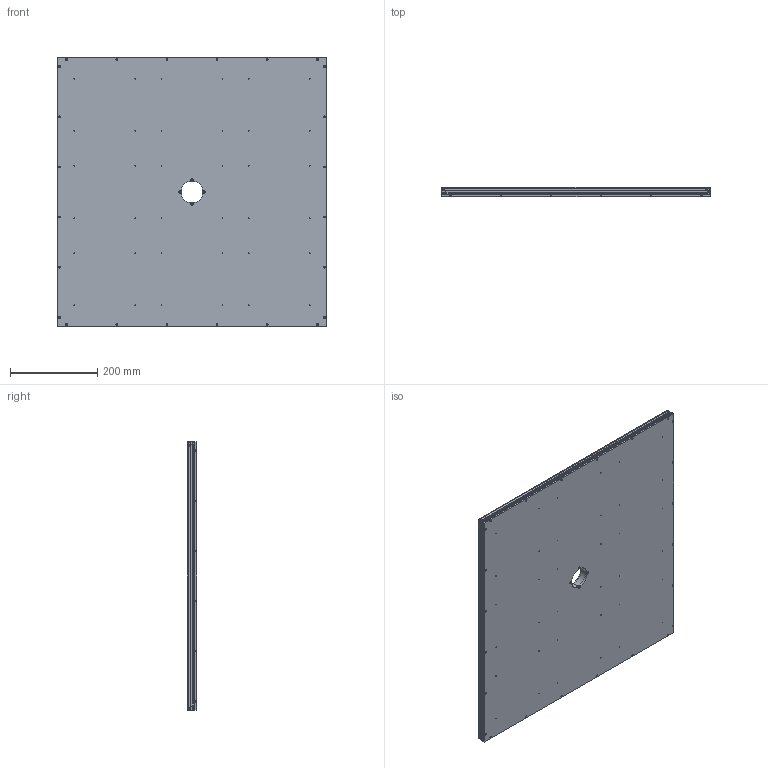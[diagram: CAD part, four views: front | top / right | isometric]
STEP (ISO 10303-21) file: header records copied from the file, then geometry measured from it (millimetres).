
FILE_DESCRIPTION (( 'STEP AP203' ), '1' );
FILE_NAME ('CK-FLBO600600Y50.STEP', '2025-09-18T01:50:48', ( '' ), ( '' ), 'SwSTEP 2.0', 'SolidWorks 2025', '' );
FILE_SCHEMA (( 'CONFIG_CONTROL_DESIGN' ));
Length unit declared in the file: millimetre
Products named in the file (8): CK-250717-002 铝环; CK-250717-004 铝型材二; CK-250717-005 白板; 灯板; 开孔灯板; CK-250717-001 铝板; CK-FLBO600600Y50; CK-250717-003 铝型材一
Assembly tree (16 placements, depth 2):
  CK-FLBO600600Y50
    CK-250717-001 铝板
    开孔灯板
    灯板  x8
    CK-250717-002 铝环
    CK-250717-003 铝型材一
    CK-250717-004 铝型材二  x3
    CK-250717-005 白板
Bounding box: 615 x 21 x 615 mm (x, y, z)
Volume: 2833777.4 mm3; surface area: 2432882.3 mm2
Topology: 16 solids, 16 shells, 18628 faces, 45158 edges, 30098 vertices
Faces by surface type: plane 18116, cylinder 454, cone 58
Entity records: 128976 total; most frequent: CARTESIAN_POINT 22664, ORIENTED_EDGE 21532, DIRECTION 20280, EDGE_CURVE 10766, VECTOR 9980, LINE 9980, VERTEX_POINT 7176, EDGE_LOOP 5412
